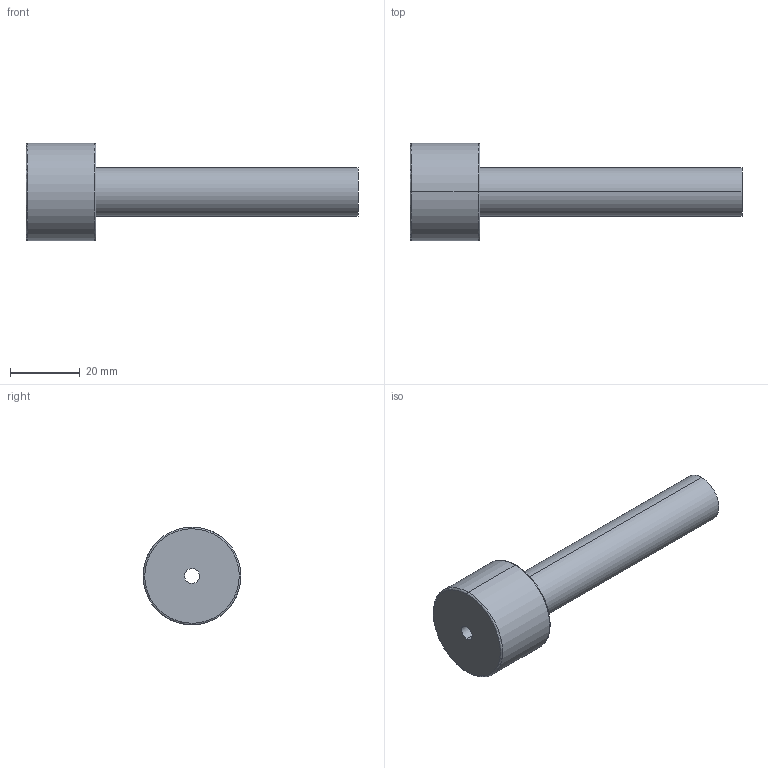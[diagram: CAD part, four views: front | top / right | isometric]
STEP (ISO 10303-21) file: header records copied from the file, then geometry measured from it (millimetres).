
FILE_DESCRIPTION(('CATIA V5 STEP Exchange'),'2;1');
FILE_NAME('C:\Users\Utente\Desktop\IO LAVORO\3D X SITO CF\X SITO\PLASTICA\3D files 367\367F-14X95.stp','2021-03-24T15:52:31+00:00',('none'),('none'),'CATIA Version 5 Release 20 GA (IN-10)','CATIA V5 STEP AP203','none');
FILE_SCHEMA(('CONFIG_CONTROL_DESIGN'));
Length unit declared in the file: millimetre
Products named in the file (1): 367F-14X95
Bounding box: 95 x 28 x 28 mm (x, y, z)
Volume: 20259.5 mm3; surface area: 8195.9 mm2
Topology: 1 solids, 1 shells, 13 faces, 42 edges, 32 vertices
Faces by surface type: torus 4, cylinder 4, plane 3, cone 2
Entity records: 614 total; most frequent: CARTESIAN_POINT 200, ORIENTED_EDGE 84, DIRECTION 60, AXIS2_PLACEMENT_3D 42, EDGE_CURVE 42, VERTEX_POINT 32, CIRCLE 28, EDGE_LOOP 16
